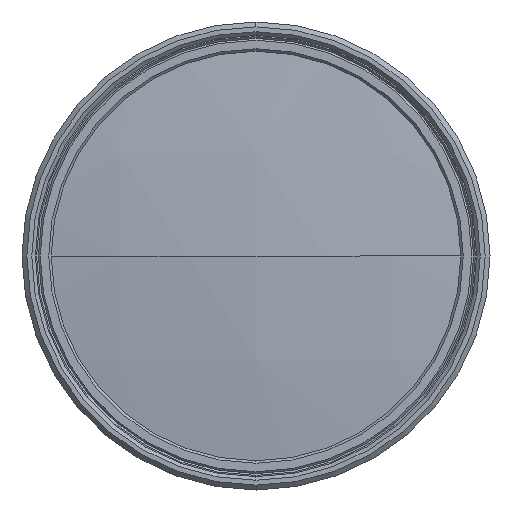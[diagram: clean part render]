
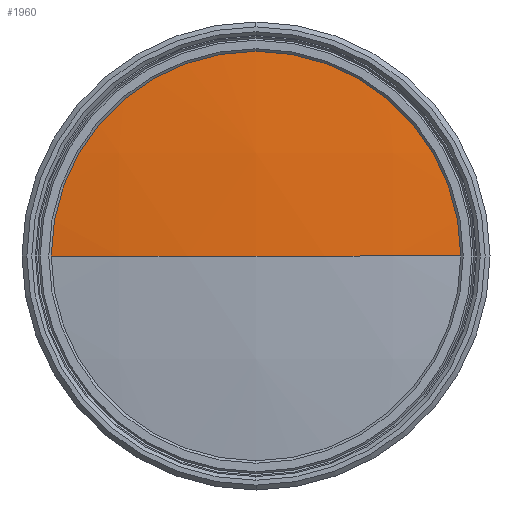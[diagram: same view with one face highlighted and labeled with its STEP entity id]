
A CAD part, left-side view. The second image highlights one B-rep face of the part: STEP entity #1960.
In plain terms, the highlighted spherical face has radius 165 mm.
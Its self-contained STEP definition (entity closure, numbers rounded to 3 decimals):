
#23 = DIRECTION ( 'NONE',  ( 0., -1., 0. ) ) ;
#106 = CARTESIAN_POINT ( 'NONE',  ( 5.14, 0., 0. ) ) ;
#110 = CIRCLE ( 'NONE', #1938, 165. ) ;
#133 = CIRCLE ( 'NONE', #1033, 21.1 ) ;
#135 = CARTESIAN_POINT ( 'NONE',  ( 6.495, 0., 0. ) ) ;
#203 = CIRCLE ( 'NONE', #2105, 21.1 ) ;
#221 = FACE_OUTER_BOUND ( 'NONE', #1982, .T. ) ;
#306 = DIRECTION ( 'NONE',  ( 0., 0., -1. ) ) ;
#307 = CARTESIAN_POINT ( 'NONE',  ( 6.495, 21.1, 0. ) ) ;
#582 = ORIENTED_EDGE ( 'NONE', *, *, #1444, .F. ) ;
#629 = CARTESIAN_POINT ( 'NONE',  ( 170.14, 0., 0. ) ) ;
#676 = ORIENTED_EDGE ( 'NONE', *, *, #1754, .F. ) ;
#789 = CIRCLE ( 'NONE', #1594, 165. ) ;
#893 = CARTESIAN_POINT ( 'NONE',  ( 170.14, 0., 0. ) ) ;
#900 = CARTESIAN_POINT ( 'NONE',  ( 6.495, 0., 0. ) ) ;
#925 = EDGE_CURVE ( 'NONE', #1704, #946, #203, .T. ) ;
#946 = VERTEX_POINT ( 'NONE', #1790 ) ;
#1033 = AXIS2_PLACEMENT_3D ( 'NONE', #135, #1344, #306 ) ;
#1061 = VERTEX_POINT ( 'NONE', #307 ) ;
#1066 = DIRECTION ( 'NONE',  ( 0., 0., 1. ) ) ;
#1073 = DIRECTION ( 'NONE',  ( -1., 0., 0. ) ) ;
#1082 = DIRECTION ( 'NONE',  ( 0., 0., -1. ) ) ;
#1110 = EDGE_CURVE ( 'NONE', #2165, #946, #789, .T. ) ;
#1153 = DIRECTION ( 'NONE',  ( 0., 1., 0. ) ) ;
#1318 = DIRECTION ( 'NONE',  ( 0., 0., 1. ) ) ;
#1344 = DIRECTION ( 'NONE',  ( 1., 0., 0. ) ) ;
#1414 = ORIENTED_EDGE ( 'NONE', *, *, #1110, .T. ) ;
#1444 = EDGE_CURVE ( 'NONE', #1061, #1704, #133, .T. ) ;
#1562 = SPHERICAL_SURFACE ( 'NONE', #2275, 165. ) ;
#1594 = AXIS2_PLACEMENT_3D ( 'NONE', #2118, #1066, #23 ) ;
#1704 = VERTEX_POINT ( 'NONE', #1936 ) ;
#1729 = ORIENTED_EDGE ( 'NONE', *, *, #925, .F. ) ;
#1754 = EDGE_CURVE ( 'NONE', #2165, #1061, #110, .T. ) ;
#1790 = CARTESIAN_POINT ( 'NONE',  ( 6.495, -21.1, 0. ) ) ;
#1936 = CARTESIAN_POINT ( 'NONE',  ( 6.495, 0., 21.1 ) ) ;
#1938 = AXIS2_PLACEMENT_3D ( 'NONE', #893, #2123, #1073 ) ;
#1960 = ADVANCED_FACE ( 'NONE', ( #221 ), #1562, .T. ) ;
#1982 = EDGE_LOOP ( 'NONE', ( #676, #1414, #1729, #582 ) ) ;
#2105 = AXIS2_PLACEMENT_3D ( 'NONE', #900, #2132, #1082 ) ;
#2118 = CARTESIAN_POINT ( 'NONE',  ( 170.14, 0., 0. ) ) ;
#2123 = DIRECTION ( 'NONE',  ( 0., 0., -1. ) ) ;
#2132 = DIRECTION ( 'NONE',  ( 1., 0., 0. ) ) ;
#2165 = VERTEX_POINT ( 'NONE', #106 ) ;
#2275 = AXIS2_PLACEMENT_3D ( 'NONE', #629, #1318, #1153 ) ;
